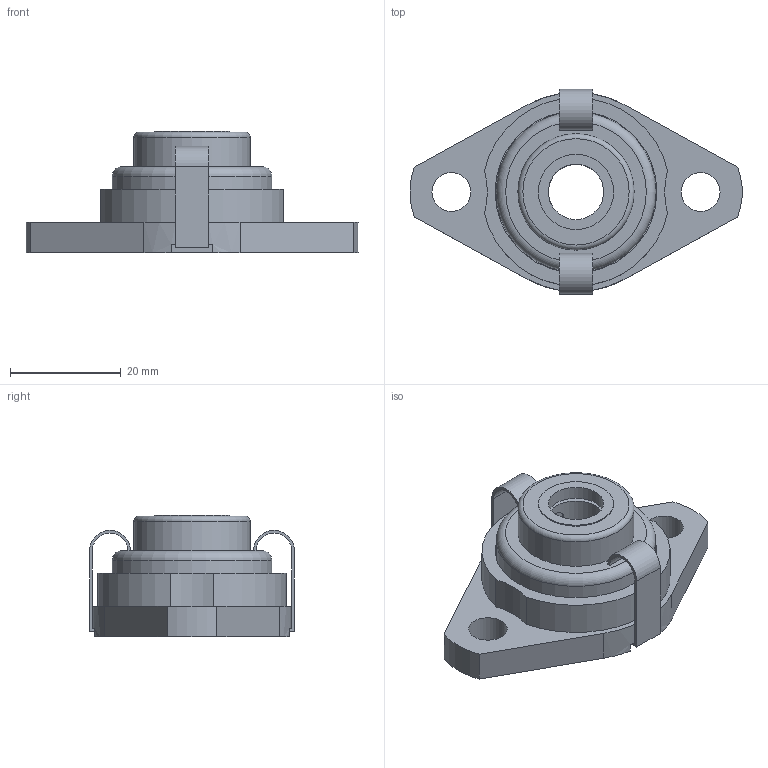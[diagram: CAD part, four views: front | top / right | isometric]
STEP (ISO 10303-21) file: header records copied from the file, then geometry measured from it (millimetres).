
FILE_DESCRIPTION((''),'2;1');
FILE_NAME('\\Ts-tgl068\j-cad-d-base\00.3DCADデータ作成フォルダ\11.エコシリーズ\MUSFL000\MUSFL000C.stp','2014-11-12T09:42:27',('btec_1106_2'),(''),'Autodesk Inventor 2012','Autodesk Inventor 2012','');
FILE_SCHEMA(('AUTOMOTIVE_DESIGN { 1 0 10303 214 1 1 1 1 }'));
Length unit declared in the file: millimetre
Products named in the file (5): MUSFL000C(E); SFL000; U000; 000CP10; 0CLL
Assembly tree (5 placements, depth 2):
  MUSFL000C(E)
    SFL000
    U000
    000CP10
    0CLL  x2
Bounding box: 59.94 x 37 x 22 mm (x, y, z)
Volume: 11753.2 mm3; surface area: 10828.9 mm2
Topology: 5 solids, 5 shells, 112 faces, 267 edges, 175 vertices
Faces by surface type: plane 62, cylinder 41, torus 4, cone 3, sphere 2
Full cylindrical faces by diameter (mm): 3.5 x1, 4 x1, 7 x2, 10 x2, 13.6 x2, 14.8 x1, 17 x1, 20.4 x1, 21 x1, 28.2 x1, 28.8 x1, 29.2 x1
Entity records: 3058 total; most frequent: CARTESIAN_POINT 606, DIRECTION 516, ORIENTED_EDGE 418, EDGE_CURVE 209, AXIS2_PLACEMENT_3D 201, VERTEX_POINT 151, EDGE_LOOP 150, VECTOR 114
